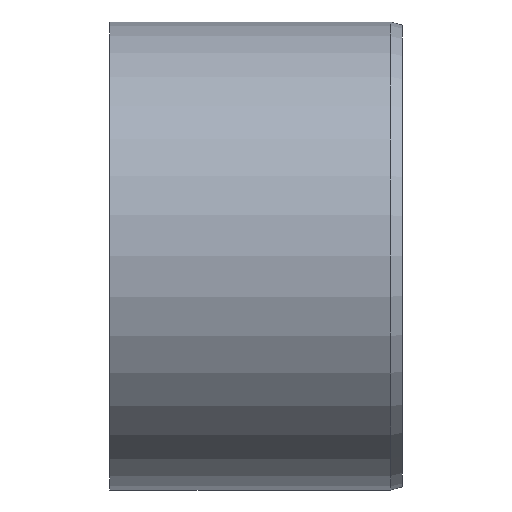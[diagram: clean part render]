
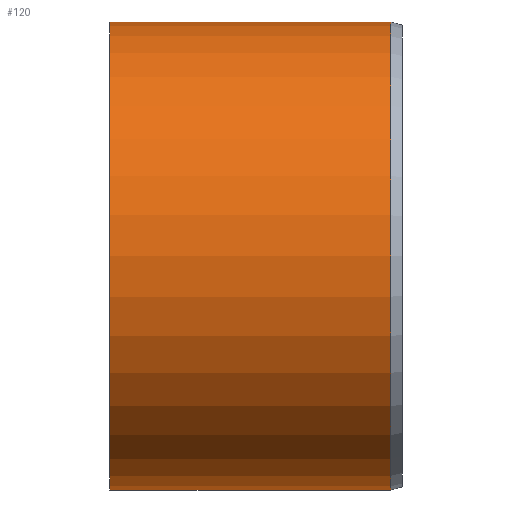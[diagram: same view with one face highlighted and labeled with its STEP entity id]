
A CAD part, front view. The second image highlights one B-rep face of the part: STEP entity #120.
In plain terms, the highlighted cylindrical face has radius 80 mm (diameter 160 mm), a full revolution.
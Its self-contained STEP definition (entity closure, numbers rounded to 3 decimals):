
#20=LINE('',#229,#23);
#23=VECTOR('',#197,80.);
#26=CYLINDRICAL_SURFACE('',#157,80.);
#32=FACE_OUTER_BOUND('',#41,.T.);
#41=EDGE_LOOP('',(#97,#98,#99,#100));
#49=CIRCLE('',#151,80.);
#53=CIRCLE('',#158,80.);
#59=VERTEX_POINT('',#217);
#62=VERTEX_POINT('',#227);
#70=EDGE_CURVE('',#59,#59,#49,.T.);
#74=EDGE_CURVE('',#62,#62,#53,.T.);
#75=EDGE_CURVE('',#62,#59,#20,.T.);
#97=ORIENTED_EDGE('',*,*,#74,.F.);
#98=ORIENTED_EDGE('',*,*,#75,.T.);
#99=ORIENTED_EDGE('',*,*,#70,.T.);
#100=ORIENTED_EDGE('',*,*,#75,.F.);
#120=ADVANCED_FACE('',(#32),#26,.T.);
#151=AXIS2_PLACEMENT_3D('',#218,#181,#182);
#157=AXIS2_PLACEMENT_3D('',#226,#193,#194);
#158=AXIS2_PLACEMENT_3D('',#228,#195,#196);
#181=DIRECTION('center_axis',(1.,0.,0.));
#182=DIRECTION('ref_axis',(0.,0.,-1.));
#193=DIRECTION('center_axis',(1.,0.,0.));
#194=DIRECTION('ref_axis',(0.,1.,0.));
#195=DIRECTION('center_axis',(1.,0.,0.));
#196=DIRECTION('ref_axis',(0.,0.,-1.));
#197=DIRECTION('',(-1.,0.,0.));
#217=CARTESIAN_POINT('',(0.,-80.,0.));
#218=CARTESIAN_POINT('Origin',(0.,0.,0.));
#226=CARTESIAN_POINT('Origin',(48.,0.,0.));
#227=CARTESIAN_POINT('',(96.,-80.,0.));
#228=CARTESIAN_POINT('Origin',(96.,0.,0.));
#229=CARTESIAN_POINT('',(48.,-80.,0.));
